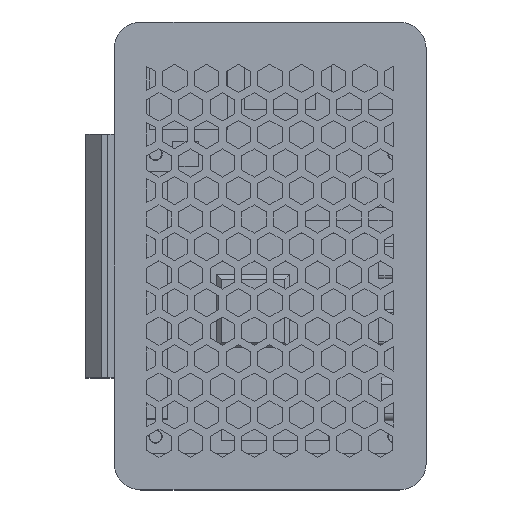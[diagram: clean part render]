
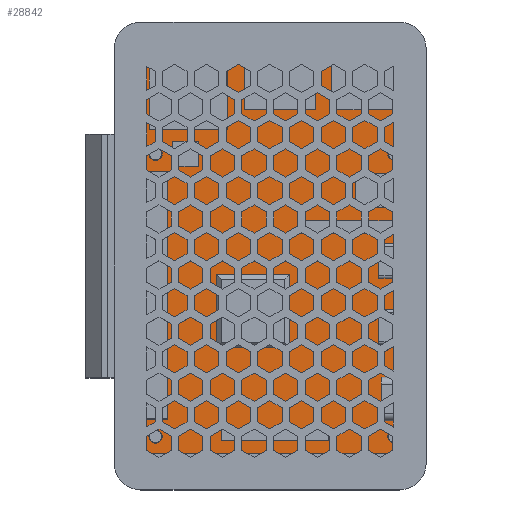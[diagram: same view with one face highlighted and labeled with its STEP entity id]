
A CAD part, top view. The second image highlights one B-rep face of the part: STEP entity #28842.
In plain terms, the highlighted planar face has unit normal (0, 0, 1).
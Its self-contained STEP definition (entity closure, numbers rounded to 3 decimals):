
#482=FACE_BOUND('',#3773,.T.);
#483=FACE_BOUND('',#3774,.T.);
#484=FACE_BOUND('',#3775,.T.);
#485=FACE_BOUND('',#3776,.T.);
#580=CIRCLE('',#30359,1.35);
#582=CIRCLE('',#30362,1.35);
#584=CIRCLE('',#30365,1.35);
#586=CIRCLE('',#30368,1.35);
#589=CIRCLE('',#30373,3.);
#591=CIRCLE('',#30377,3.);
#593=CIRCLE('',#30381,3.);
#595=CIRCLE('',#30385,3.);
#1974=FACE_OUTER_BOUND('',#3772,.T.);
#3772=EDGE_LOOP('',(#25797,#25798,#25799,#25800,#25801,#25802,#25803,#25804));
#3773=EDGE_LOOP('',(#25805));
#3774=EDGE_LOOP('',(#25806));
#3775=EDGE_LOOP('',(#25807));
#3776=EDGE_LOOP('',(#25808));
#7544=LINE('',#44986,#11402);
#7548=LINE('',#44998,#11406);
#7552=LINE('',#45010,#11410);
#7556=LINE('',#45022,#11414);
#11402=VECTOR('',#36940,10.);
#11406=VECTOR('',#36952,10.);
#11410=VECTOR('',#36964,10.);
#11414=VECTOR('',#36976,10.);
#14095=VERTEX_POINT('',#44956);
#14097=VERTEX_POINT('',#44962);
#14099=VERTEX_POINT('',#44968);
#14101=VERTEX_POINT('',#44974);
#14105=VERTEX_POINT('',#44983);
#14106=VERTEX_POINT('',#44985);
#14108=VERTEX_POINT('',#44991);
#14110=VERTEX_POINT('',#44997);
#14112=VERTEX_POINT('',#45003);
#14114=VERTEX_POINT('',#45009);
#14116=VERTEX_POINT('',#45015);
#14118=VERTEX_POINT('',#45021);
#18006=EDGE_CURVE('',#14095,#14095,#580,.T.);
#18009=EDGE_CURVE('',#14097,#14097,#582,.T.);
#18012=EDGE_CURVE('',#14099,#14099,#584,.T.);
#18015=EDGE_CURVE('',#14101,#14101,#586,.T.);
#18020=EDGE_CURVE('',#14106,#14105,#7544,.T.);
#18023=EDGE_CURVE('',#14108,#14106,#589,.T.);
#18026=EDGE_CURVE('',#14110,#14108,#7548,.T.);
#18029=EDGE_CURVE('',#14112,#14110,#591,.T.);
#18032=EDGE_CURVE('',#14114,#14112,#7552,.T.);
#18035=EDGE_CURVE('',#14116,#14114,#593,.T.);
#18038=EDGE_CURVE('',#14118,#14116,#7556,.T.);
#18041=EDGE_CURVE('',#14105,#14118,#595,.T.);
#25797=ORIENTED_EDGE('',*,*,#18041,.T.);
#25798=ORIENTED_EDGE('',*,*,#18038,.T.);
#25799=ORIENTED_EDGE('',*,*,#18035,.T.);
#25800=ORIENTED_EDGE('',*,*,#18032,.T.);
#25801=ORIENTED_EDGE('',*,*,#18029,.T.);
#25802=ORIENTED_EDGE('',*,*,#18026,.T.);
#25803=ORIENTED_EDGE('',*,*,#18023,.T.);
#25804=ORIENTED_EDGE('',*,*,#18020,.T.);
#25805=ORIENTED_EDGE('',*,*,#18015,.T.);
#25806=ORIENTED_EDGE('',*,*,#18012,.T.);
#25807=ORIENTED_EDGE('',*,*,#18009,.T.);
#25808=ORIENTED_EDGE('',*,*,#18006,.T.);
#27476=PLANE('',#30386);
#28842=ADVANCED_FACE('',(#1974,#482,#483,#484,#485),#27476,.T.);
#30359=AXIS2_PLACEMENT_3D('',#44957,#36910,#36911);
#30362=AXIS2_PLACEMENT_3D('',#44963,#36917,#36918);
#30365=AXIS2_PLACEMENT_3D('',#44969,#36924,#36925);
#30368=AXIS2_PLACEMENT_3D('',#44975,#36931,#36932);
#30373=AXIS2_PLACEMENT_3D('',#44992,#36946,#36947);
#30377=AXIS2_PLACEMENT_3D('',#45004,#36958,#36959);
#30381=AXIS2_PLACEMENT_3D('',#45016,#36970,#36971);
#30385=AXIS2_PLACEMENT_3D('',#45026,#36982,#36983);
#30386=AXIS2_PLACEMENT_3D('',#45027,#36984,#36985);
#36910=DIRECTION('center_axis',(0.,0.,-1.));
#36911=DIRECTION('ref_axis',(1.,0.,0.));
#36917=DIRECTION('center_axis',(0.,0.,-1.));
#36918=DIRECTION('ref_axis',(1.,0.,0.));
#36924=DIRECTION('center_axis',(0.,0.,-1.));
#36925=DIRECTION('ref_axis',(1.,0.,0.));
#36931=DIRECTION('center_axis',(0.,0.,-1.));
#36932=DIRECTION('ref_axis',(1.,0.,0.));
#36940=DIRECTION('',(1.,0.,0.));
#36946=DIRECTION('center_axis',(0.,0.,1.));
#36947=DIRECTION('ref_axis',(-1.,0.,0.));
#36952=DIRECTION('',(0.,-1.,0.));
#36958=DIRECTION('center_axis',(0.,0.,1.));
#36959=DIRECTION('ref_axis',(0.,1.,0.));
#36964=DIRECTION('',(-1.,0.,0.));
#36970=DIRECTION('center_axis',(0.,0.,1.));
#36971=DIRECTION('ref_axis',(1.,0.,0.));
#36976=DIRECTION('',(0.,1.,0.));
#36982=DIRECTION('center_axis',(0.,0.,1.));
#36983=DIRECTION('ref_axis',(0.,-1.,0.));
#36984=DIRECTION('center_axis',(0.,0.,1.));
#36985=DIRECTION('ref_axis',(1.,0.,0.));
#44956=CARTESIAN_POINT('',(-30.35,24.5,1.));
#44957=CARTESIAN_POINT('Origin',(-29.,24.5,1.));
#44962=CARTESIAN_POINT('',(-30.35,-24.5,1.));
#44963=CARTESIAN_POINT('Origin',(-29.,-24.5,1.));
#44968=CARTESIAN_POINT('',(27.65,-24.5,1.));
#44969=CARTESIAN_POINT('Origin',(29.,-24.5,1.));
#44974=CARTESIAN_POINT('',(27.65,24.5,1.));
#44975=CARTESIAN_POINT('Origin',(29.,24.5,1.));
#44983=CARTESIAN_POINT('',(49.499,-28.,1.));
#44985=CARTESIAN_POINT('',(-29.5,-28.,1.));
#44986=CARTESIAN_POINT('',(49.499,-28.,1.));
#44991=CARTESIAN_POINT('',(-32.5,-25.,1.));
#44992=CARTESIAN_POINT('Origin',(-29.5,-25.,1.));
#44997=CARTESIAN_POINT('',(-32.5,25.,1.));
#44998=CARTESIAN_POINT('',(-32.5,25.,1.));
#45003=CARTESIAN_POINT('',(-29.5,28.,1.));
#45004=CARTESIAN_POINT('Origin',(-29.5,25.,1.));
#45009=CARTESIAN_POINT('',(49.499,28.,1.));
#45010=CARTESIAN_POINT('',(49.499,28.,1.));
#45015=CARTESIAN_POINT('',(52.499,25.,1.));
#45016=CARTESIAN_POINT('Origin',(49.499,25.,1.));
#45021=CARTESIAN_POINT('',(52.499,-25.,1.));
#45022=CARTESIAN_POINT('',(52.499,-25.,1.));
#45026=CARTESIAN_POINT('Origin',(49.499,-25.,1.));
#45027=CARTESIAN_POINT('Origin',(9.999,0.,
1.));
